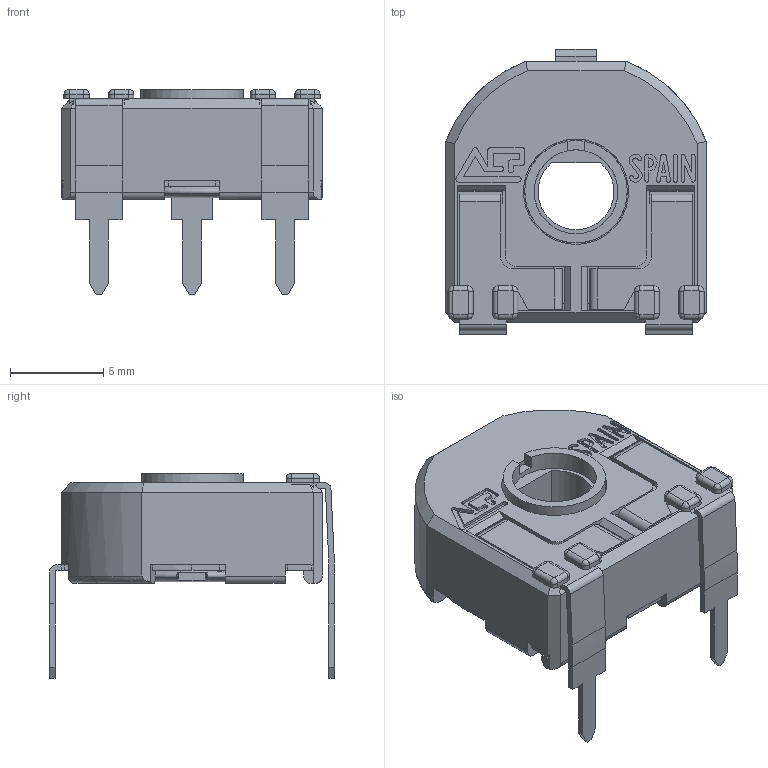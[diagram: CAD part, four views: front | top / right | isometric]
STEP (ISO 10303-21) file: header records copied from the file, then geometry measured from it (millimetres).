
FILE_DESCRIPTION(/* description */ (''),/* implementation_level */ '2;1');
FILE_NAME(/* name */ 'C:\Users\CEM\Desktop\ENVIAR\TRANSICION 3D CATALOGOS\CAR14DV15.stp',/* time_stamp */ '2025-09-22T09:50:01+02:00',/* author */ ('CEM'),/* organization */ (''),/* preprocessor_version */ 'ST-DEVELOPER v17',/* originating_system */ 'Autodesk Inventor 2018',/* authorisation */ '');
FILE_SCHEMA (('AUTOMOTIVE_DESIGN { 1 0 10303 214 3 1 1 }'));
Length unit declared in the file: millimetre
Products named in the file (1): CAR14DV15
Bounding box: 14 x 15.3 x 11 mm (x, y, z)
Volume: 545 mm3; surface area: 1551 mm2
Topology: 1 solids, 1 shells, 593 faces, 1730 edges, 1109 vertices
Faces by surface type: plane 403, cylinder 147, bspline 20, cone 14, torus 9
Full cylindrical faces by diameter (mm): 1.2 x2, 4.5 x1, 5.5 x1, 5.65 x1, 6.88 x1
Entity records: 20349 total; most frequent: CARTESIAN_POINT 3757, ORIENTED_EDGE 3460, DIRECTION 3253, EDGE_CURVE 1730, LINE 1279, VECTOR 1279, VERTEX_POINT 1109, AXIS2_PLACEMENT_3D 987
